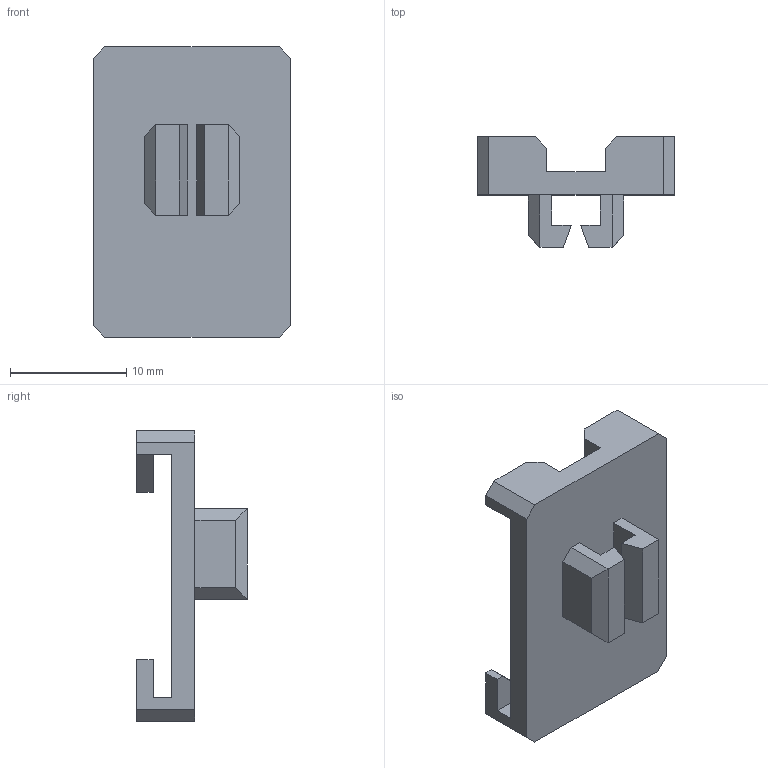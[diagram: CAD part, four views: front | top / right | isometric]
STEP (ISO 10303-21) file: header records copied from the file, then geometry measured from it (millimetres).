
FILE_DESCRIPTION (( 'STEP AP203' ), '1' );
FILE_NAME ('煦萇啣釱.STEP', '2025-06-08T04:56:04', ( 'User' ), ( 'China' ), 'SwSTEP 2.0', 'SolidWorks 2024', '' );
FILE_SCHEMA (( 'CONFIG_CONTROL_DESIGN' ));
Length unit declared in the file: millimetre
Products named in the file (1): 分电板座
Bounding box: 17 x 9.5 x 25 mm (x, y, z)
Volume: 1166.6 mm3; surface area: 1441 mm2
Topology: 1 solids, 1 shells, 52 faces, 140 edges, 92 vertices
Faces by surface type: plane 52
Entity records: 1669 total; most frequent: CARTESIAN_POINT 285, ORIENTED_EDGE 280, DIRECTION 246, EDGE_CURVE 140, LINE 140, VECTOR 140, VERTEX_POINT 92, EDGE_LOOP 54
